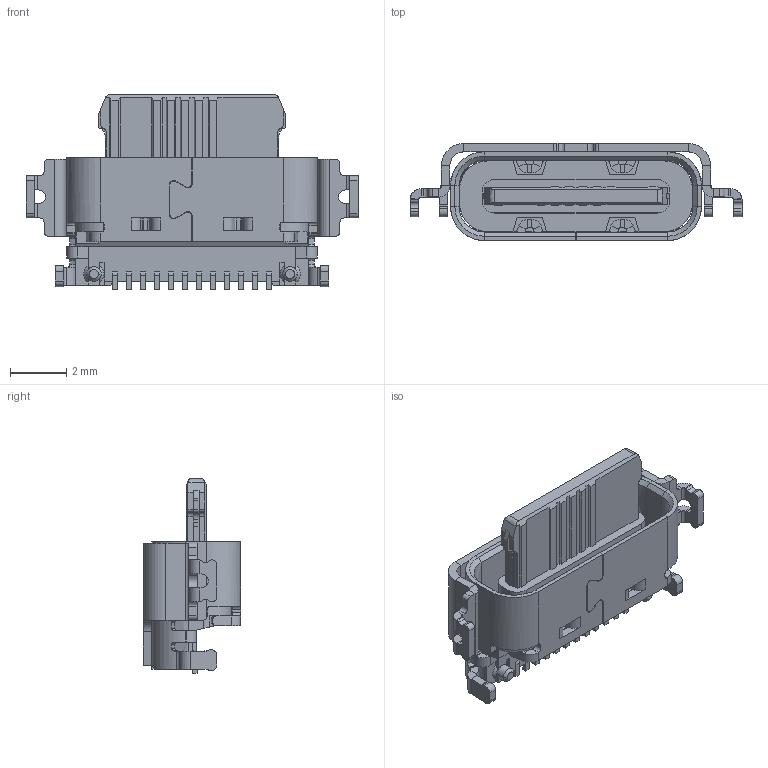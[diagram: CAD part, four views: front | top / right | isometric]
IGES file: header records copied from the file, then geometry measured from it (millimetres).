
Start section:  PTC IGES file: TYPE_C_12PIN_OT5048.igs
Global section: file name: TYPE_C_12PIN_OT5048.igs; native system: Pro/ENGINEER by Parametric Technology Corporation; preprocessor: 2010280; author: Administrator; organization: Unknown; date: 20230209.204717; units: millimetre
Bounding box: 11.84 x 3.46 x 6.95 mm (x, y, z)
Surface area: 385.9 mm2 (no closed solid volume)
Topology: 0 solids, 0 shells, 820 faces, 4362 edges, 4362 vertices
Faces by surface type: bspline 596, revolution 224
